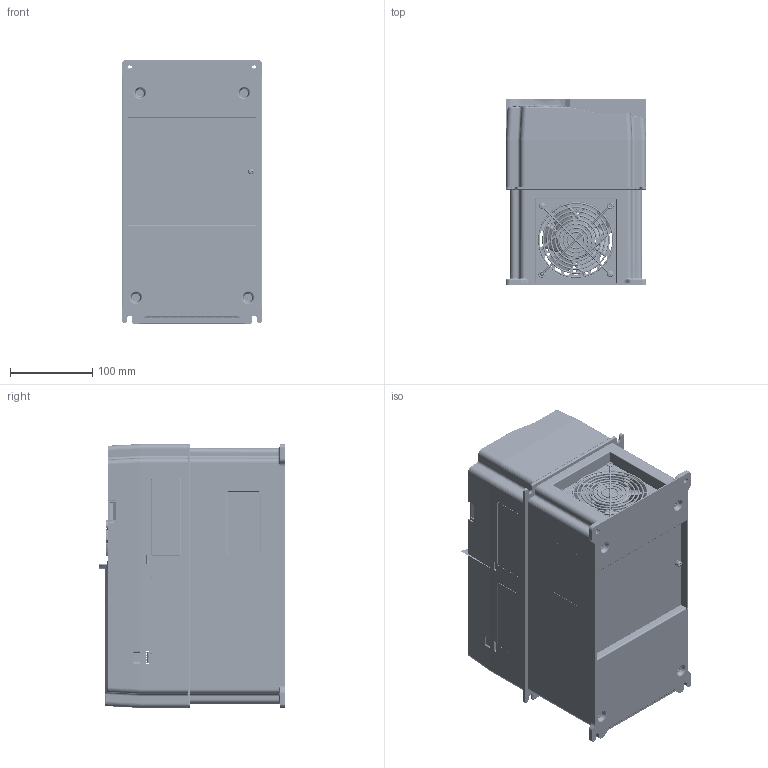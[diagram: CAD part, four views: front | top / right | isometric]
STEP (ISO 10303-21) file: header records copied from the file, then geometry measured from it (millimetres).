
FILE_DESCRIPTION((''),'2;1');
FILE_NAME('GD350-011G-4-UL_ASM','2019-10-21T',('Administrator'),(''),'PRO/ENGINEER BY PARAMETRIC TECHNOLOGY CORPORATION, 2010100','PRO/ENGINEER BY PARAMETRIC TECHNOLOGY CORPORATION, 2010100','');
FILE_SCHEMA(('CONFIG_CONTROL_DESIGN'));
Products named in the file (39): 80740009; 80740019; CAPCITANCE-PCBA_ASM; DRIVE_PCBA_11KW; TB1000-05_BODY; TB1000-05_TER; OJHZ-1000-S-18; OJHZ-1000-LDYAP-18; TB1000-05_SCREWASSEMMLY_ASM; TB1000-05_ASM; PCB_TERMINAL_01; DRIVE_PCBA_11KW_ASM; FAN_92; FENGSHANWANG; 80310003; GB9074_4_M4X45; 80810004SY; 80740178; 0_GD350_PCB_ASM; 80780073; 80810121; 80810122; 80740163; 80740162; 80880456; 80880456SY; 40810091_ASM; 80740164; 80740164SY; 80880455; KEY-LCD01-ZY-350_ASM; 80880485; 77340010; GB9074_4_M4X12; GB9074_4_M4X10; GB9074_13_M5X12; GB9074_13_M5X16; FS-011G-UL_ASM; GD350-011G-4-UL_ASM
Assembly tree (62 placements, depth 5):
  GD350-011G-4-UL_ASM
    80740009
    80740019  x4
    CAPCITANCE-PCBA_ASM
    DRIVE_PCBA_11KW_ASM
      DRIVE_PCBA_11KW
      TB1000-05_ASM
        TB1000-05_BODY
        TB1000-05_TER  x2
        TB1000-05_SCREWASSEMMLY_ASM  x2
          OJHZ-1000-S-18
          OJHZ-1000-LDYAP-18
      PCB_TERMINAL_01  x2
    FAN_92
    FENGSHANWANG
    80310003
    GB9074_4_M4X45  x2
    80810004SY
    80740178
    0_GD350_PCB_ASM
    80780073
    80810121
    80810122
    KEY-LCD01-ZY-350_ASM
      80740163
      40810091_ASM
        80740162
        80880456
        80880456SY
      80740164
      80740164SY
      80880455
    80880485
    FS-011G-UL_ASM
      77340010
      GB9074_4_M4X12  x9
      GB9074_4_M4X10  x8
      GB9074_13_M5X12  x2
      GB9074_13_M5X16  x2
Bounding box: 170.6 x 225.3 x 320 mm (x, y, z)
Volume: 1344364 mm3; surface area: 1222438.8 mm2
Topology: 56 solids, 59 shells, 11291 faces, 31368 edges, 20218 vertices
Faces by surface type: plane 7037, cylinder 2420, bspline 494, torus 477, extrusion 439, cone 315, sphere 93, revolution 16
Entity records: 370048 total; most frequent: CARTESIAN_POINT 105816, ORIENTED_EDGE 57612, DIRECTION 50644, EDGE_CURVE 28814, VECTOR 21276, LINE 20837, VERTEX_POINT 18624, AXIS2_PLACEMENT_3D 14676
